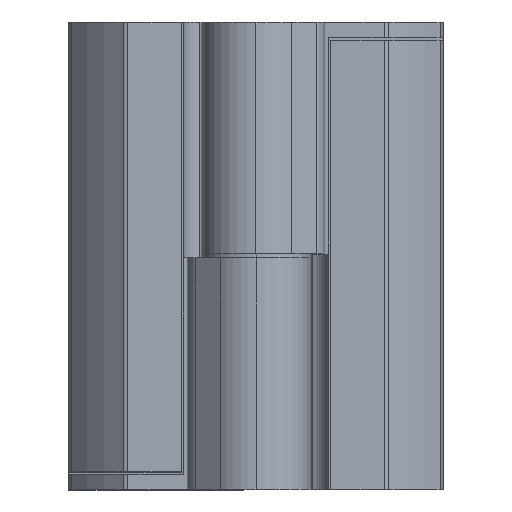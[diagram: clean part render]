
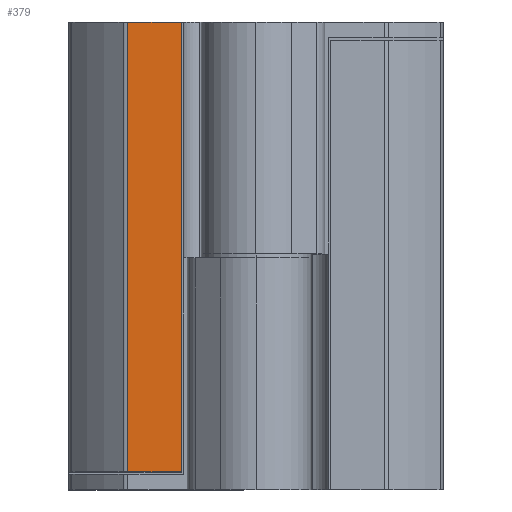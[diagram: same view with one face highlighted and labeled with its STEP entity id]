
A CAD part, top view. The second image highlights one B-rep face of the part: STEP entity #379.
In plain terms, the highlighted planar face has unit normal (0, 0, 1).
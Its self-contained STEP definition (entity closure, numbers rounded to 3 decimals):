
#68 = CARTESIAN_POINT ( 'NONE',  ( -16.436, 30., 0. ) ) ;
#168 = AXIS2_PLACEMENT_3D ( 'NONE', #68, #1293, #835 ) ;
#196 = DIRECTION ( 'NONE',  ( -1., 0., 0. ) ) ;
#213 = FACE_OUTER_BOUND ( 'NONE', #218, .T. ) ;
#218 = EDGE_LOOP ( 'NONE', ( #641, #832, #2000, #373 ) ) ;
#258 = VERTEX_POINT ( 'NONE', #1059 ) ;
#303 = CARTESIAN_POINT ( 'NONE',  ( -24., -27.7, 0. ) ) ;
#332 = VECTOR ( 'NONE', #1017, 1000. ) ;
#343 = CARTESIAN_POINT ( 'NONE',  ( -9.6, 30., 0. ) ) ;
#373 = ORIENTED_EDGE ( 'NONE', *, *, #1358, .F. ) ;
#379 = ADVANCED_FACE ( 'NONE', ( #213 ), #541, .F. ) ;
#397 = LINE ( 'NONE', #1968, #1779 ) ;
#460 = EDGE_CURVE ( 'NONE', #1035, #258, #1996, .T. ) ;
#541 = PLANE ( 'NONE',  #168 ) ;
#641 = ORIENTED_EDGE ( 'NONE', *, *, #460, .T. ) ;
#825 = VECTOR ( 'NONE', #196, 1000. ) ;
#831 = DIRECTION ( 'NONE',  ( 0., -1., 0. ) ) ;
#832 = ORIENTED_EDGE ( 'NONE', *, *, #1565, .F. ) ;
#835 = DIRECTION ( 'NONE',  ( -1., 0., 0. ) ) ;
#900 = EDGE_CURVE ( 'NONE', #1170, #1606, #1788, .T. ) ;
#1017 = DIRECTION ( 'NONE',  ( 0., -1., 0. ) ) ;
#1035 = VERTEX_POINT ( 'NONE', #1689 ) ;
#1059 = CARTESIAN_POINT ( 'NONE',  ( -16.436, -27.7, 0. ) ) ;
#1170 = VERTEX_POINT ( 'NONE', #1893 ) ;
#1293 = DIRECTION ( 'NONE',  ( 0., 0., -1. ) ) ;
#1358 = EDGE_CURVE ( 'NONE', #1035, #1170, #397, .T. ) ;
#1460 = CARTESIAN_POINT ( 'NONE',  ( -9.6, -27.7, 0. ) ) ;
#1461 = LINE ( 'NONE', #303, #825 ) ;
#1542 = CARTESIAN_POINT ( 'NONE',  ( -16.436, 30., 0. ) ) ;
#1565 = EDGE_CURVE ( 'NONE', #1606, #258, #1461, .T. ) ;
#1606 = VERTEX_POINT ( 'NONE', #1460 ) ;
#1655 = DIRECTION ( 'NONE',  ( 1., 0., 0. ) ) ;
#1689 = CARTESIAN_POINT ( 'NONE',  ( -16.436, 30., 0. ) ) ;
#1779 = VECTOR ( 'NONE', #1655, 1000. ) ;
#1788 = LINE ( 'NONE', #343, #1844 ) ;
#1844 = VECTOR ( 'NONE', #831, 1000. ) ;
#1893 = CARTESIAN_POINT ( 'NONE',  ( -9.6, 30., 0. ) ) ;
#1968 = CARTESIAN_POINT ( 'NONE',  ( -16.436, 30., 0. ) ) ;
#1996 = LINE ( 'NONE', #1542, #332 ) ;
#2000 = ORIENTED_EDGE ( 'NONE', *, *, #900, .F. ) ;
